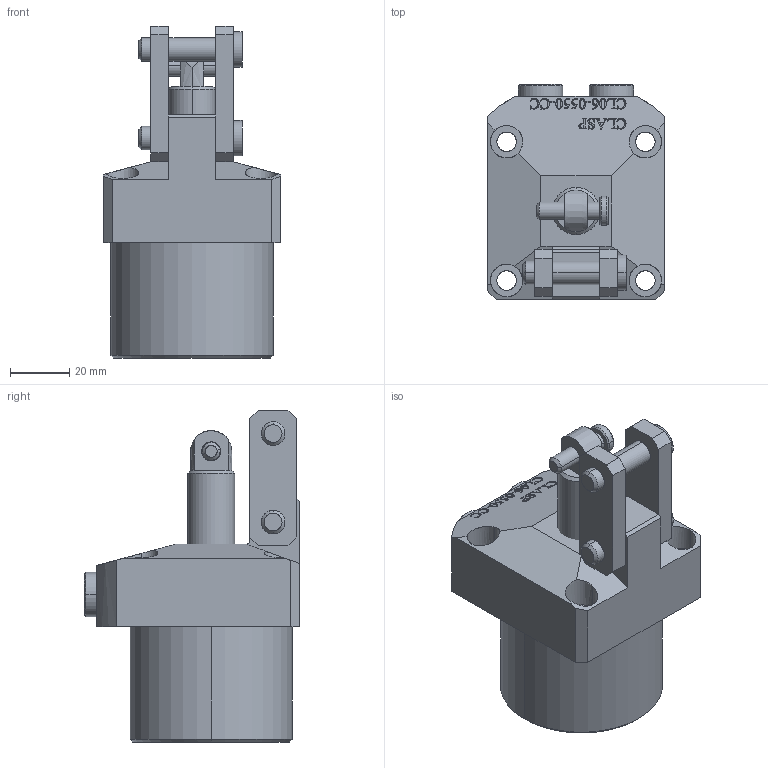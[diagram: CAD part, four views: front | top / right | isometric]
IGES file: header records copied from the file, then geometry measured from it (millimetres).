
Start section: SolidWorks IGES file using analytic representation for surfaces
Global section: file name: D:\karuppas\Clasp\3D model\Link clamp cylinder\CL06-0550-CC\CL06-0550-CC .IGS; native system: SolidWorks 2017; preprocessor: SolidWorks 2017; author: pc; date: 220717.215411; units: millimetre
Bounding box: 60 x 73 x 112.5 mm (x, y, z)
Surface area: 37063.3 mm2 (no closed solid volume)
Topology: 0 solids, 0 shells, 486 faces, 8164 edges, 8160 vertices
Faces by surface type: bspline 383, revolution 103
